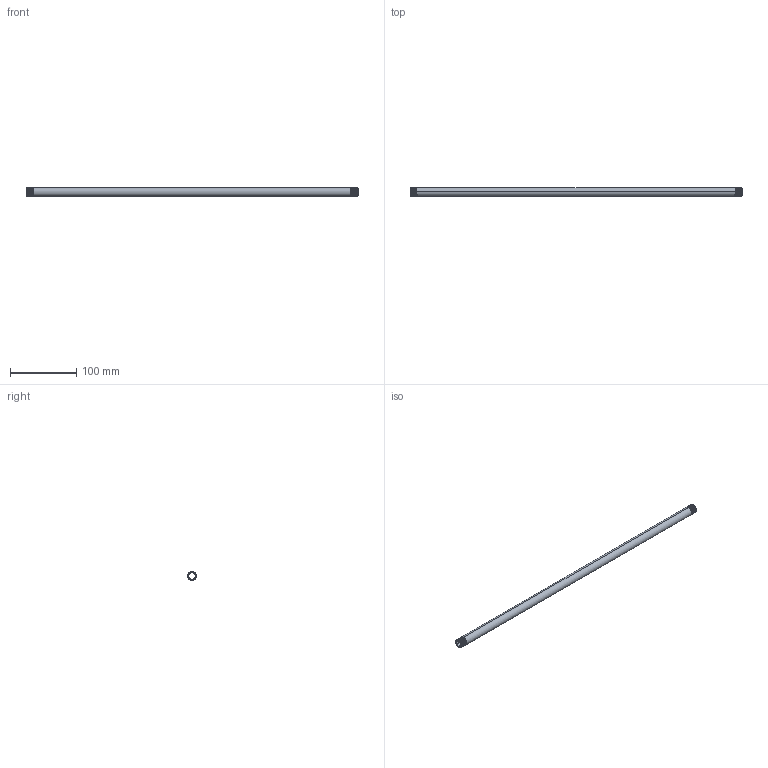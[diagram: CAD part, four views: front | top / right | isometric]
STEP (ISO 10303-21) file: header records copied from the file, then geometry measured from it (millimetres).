
FILE_DESCRIPTION (( 'STEP AP203' ), '1' );
FILE_NAME ('3D_R210_1-4x500_17191505.STEP', '2024-08-16T14:32:10', ( '' ), ( '' ), 'SwSTEP 2.0', 'SolidWorks 2024', '' );
FILE_SCHEMA (( 'CONFIG_CONTROL_DESIGN' ));
Length unit declared in the file: millimetre
Products named in the file (1): 3D_R210_1-4x500_17191505
Bounding box: 500 x 13.49 x 13.5 mm (x, y, z)
Volume: 35731.5 mm3; surface area: 36627.2 mm2
Topology: 1 solids, 1 shells, 52 faces, 144 edges, 94 vertices
Faces by surface type: cone 38, bspline 6, cylinder 4, plane 4
Entity records: 7161 total; most frequent: CARTESIAN_POINT 5939, ORIENTED_EDGE 288, DIRECTION 166, EDGE_CURVE 144, VERTEX_POINT 94, B_SPLINE_CURVE_WITH_KNOTS 76, AXIS2_PLACEMENT_3D 59, EDGE_LOOP 54
